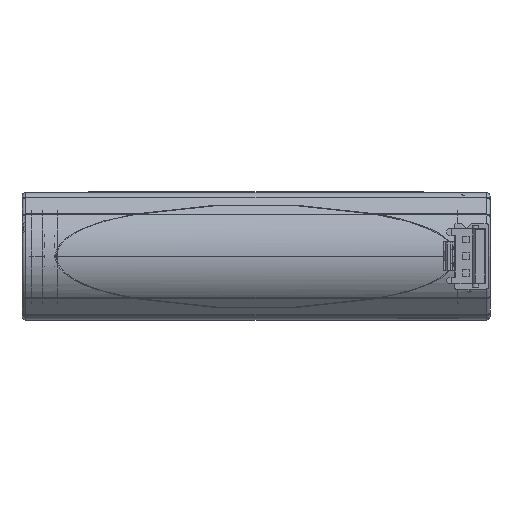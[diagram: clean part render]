
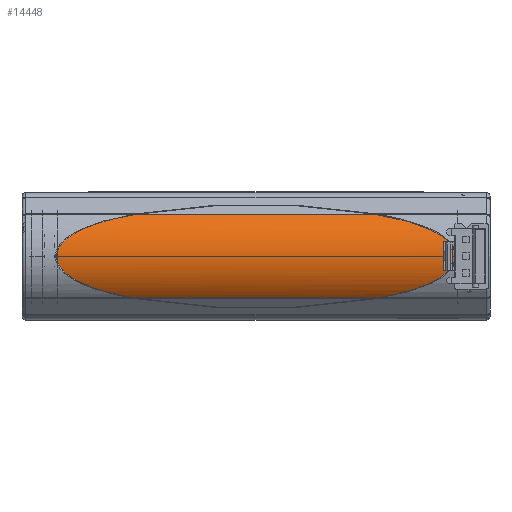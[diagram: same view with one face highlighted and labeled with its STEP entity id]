
A CAD part, front view. The second image highlights one B-rep face of the part: STEP entity #14448.
In plain terms, the highlighted cylindrical face has radius 9.35 mm (diameter 18.7 mm), a partial arc.
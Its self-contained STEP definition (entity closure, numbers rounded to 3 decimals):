
#12328=CARTESIAN_POINT('',(17.262,2.491,3.1));
#12329=CARTESIAN_POINT('',(16.596,2.392,3.209));
#12330=CARTESIAN_POINT('',(15.319,2.19,3.441));
#12331=CARTESIAN_POINT('',(13.568,1.885,3.83));
#12332=CARTESIAN_POINT('',(11.978,1.584,4.259));
#12333=CARTESIAN_POINT('',(10.535,1.293,4.731));
#12334=CARTESIAN_POINT('',(9.241,1.015,5.249));
#12335=CARTESIAN_POINT('',(8.098,0.758,
5.813));
#12336=CARTESIAN_POINT('',(7.1,0.523,
6.437));
#12337=CARTESIAN_POINT('',(6.287,0.326,
7.108));
#12338=CARTESIAN_POINT('',(5.646,0.166,
7.863));
#12339=CARTESIAN_POINT('',(5.258,0.067,
8.679));
#12340=CARTESIAN_POINT('',(5.154,0.04,
9.456));
#12341=CARTESIAN_POINT('',(5.296,0.076,
10.238));
#12342=CARTESIAN_POINT('',(5.72,0.184,
11.042));
#12343=CARTESIAN_POINT('',(6.396,0.353,
11.797));
#12344=CARTESIAN_POINT('',(7.27,0.564,
12.481));
#12345=CARTESIAN_POINT('',(8.26,0.795,
13.072));
#12346=CARTESIAN_POINT('',(9.302,1.028,13.574));
#12347=CARTESIAN_POINT('',(10.387,1.261,14.009));
#12348=CARTESIAN_POINT('',(11.514,1.491,14.393));
#12349=CARTESIAN_POINT('',(12.724,1.727,14.748));
#12350=CARTESIAN_POINT('',(14.054,1.971,15.081));
#12351=CARTESIAN_POINT('',(15.535,2.224,15.399));
#12352=CARTESIAN_POINT('',(16.665,2.402,15.602));
#12353=CARTESIAN_POINT('',(17.262,2.491,15.7));
#12355=DIRECTION('',(1.,0.,0.));
#12356=VECTOR('',#12355,35.457);
#12357=CARTESIAN_POINT('',(17.262,2.491,15.7));
#12358=LINE('',#12357,#12356);
#12359=CARTESIAN_POINT('',(52.718,2.491,15.7));
#12360=CARTESIAN_POINT('',(53.381,2.392,15.592));
#12361=CARTESIAN_POINT('',(54.651,2.191,15.361));
#12362=CARTESIAN_POINT('',(56.392,1.888,14.975));
#12363=CARTESIAN_POINT('',(57.974,1.59,14.549));
#12364=CARTESIAN_POINT('',(59.409,1.3,14.081));
#12365=CARTESIAN_POINT('',(60.697,1.024,13.57));
#12366=CARTESIAN_POINT('',(61.837,0.768,
13.012));
#12367=CARTESIAN_POINT('',(62.829,0.536,
12.399));
#12368=CARTESIAN_POINT('',(63.647,0.337,
11.735));
#12369=CARTESIAN_POINT('',(64.293,0.176,
10.995));
#12370=CARTESIAN_POINT('',(64.698,0.073,
10.195));
#12371=CARTESIAN_POINT('',(64.826,0.04,
9.422));
#12372=CARTESIAN_POINT('',(64.71,0.07,
8.636));
#12373=CARTESIAN_POINT('',(64.302,0.173,
7.816));
#12374=CARTESIAN_POINT('',(63.638,0.339,
7.053));
#12375=CARTESIAN_POINT('',(62.769,0.55,
6.359));
#12376=CARTESIAN_POINT('',(61.78,0.781,
5.76));
#12377=CARTESIAN_POINT('',(60.734,1.016,5.251));
#12378=CARTESIAN_POINT('',(59.642,1.251,4.809));
#12379=CARTESIAN_POINT('',(58.507,1.483,4.419));
#12380=CARTESIAN_POINT('',(57.286,1.721,4.06));
#12381=CARTESIAN_POINT('',(55.946,1.967,3.723));
#12382=CARTESIAN_POINT('',(54.454,2.223,3.403));
#12383=CARTESIAN_POINT('',(53.318,2.402,3.198));
#12384=CARTESIAN_POINT('',(52.718,2.491,3.1));
#12386=DIRECTION('',(-1.,0.,0.));
#12387=VECTOR('',#12386,35.457);
#12388=CARTESIAN_POINT('',(52.718,2.491,3.1));
#12389=LINE('',#12388,#12387);
#12955=VERTEX_POINT('',#12328);
#12956=VERTEX_POINT('',#12353);
#12957=VERTEX_POINT('',#12359);
#12958=VERTEX_POINT('',#12384);
#14435=CARTESIAN_POINT('',(69.93,9.4,9.4));
#14436=DIRECTION('',(-1.,0.,0.));
#14437=DIRECTION('',(0.,-1.,0.));
#14438=AXIS2_PLACEMENT_3D('',#14435,#14436,#14437);
#14439=CYLINDRICAL_SURFACE('',#14438,9.35);
#14440=ORIENTED_EDGE('',*,*,#13676,.T.);
#14442=ORIENTED_EDGE('',*,*,#14441,.T.);
#14443=ORIENTED_EDGE('',*,*,#13680,.T.);
#14445=ORIENTED_EDGE('',*,*,#14444,.T.);
#14446=EDGE_LOOP('',(#14440,#14442,#14443,#14445));
#14447=FACE_OUTER_BOUND('',#14446,.F.);
#12354=B_SPLINE_CURVE_WITH_KNOTS('',3,(#12328,#12329,#12330,#12331,#12332,
#12333,#12334,#12335,#12336,#12337,#12338,#12339,#12340,#12341,#12342,#12343,
#12344,#12345,#12346,#12347,#12348,#12349,#12350,#12351,#12352,#12353),
.UNSPECIFIED.,.F.,.F.,(4,1,1,1,1,1,1,1,1,1,1,1,1,1,1,1,1,1,1,1,1,1,1,4),(0.,
0.043,0.087,0.13,0.174,
0.217,0.261,0.304,0.348,
0.391,0.435,0.478,0.522,
0.565,0.609,0.652,0.696,
0.739,0.783,0.826,0.87,
0.913,0.957,1.),.UNSPECIFIED.);
#12385=B_SPLINE_CURVE_WITH_KNOTS('',3,(#12359,#12360,#12361,#12362,#12363,
#12364,#12365,#12366,#12367,#12368,#12369,#12370,#12371,#12372,#12373,#12374,
#12375,#12376,#12377,#12378,#12379,#12380,#12381,#12382,#12383,#12384),
.UNSPECIFIED.,.F.,.F.,(4,1,1,1,1,1,1,1,1,1,1,1,1,1,1,1,1,1,1,1,1,1,1,4),(0.,
0.043,0.087,0.13,0.174,
0.217,0.261,0.304,0.348,
0.391,0.435,0.478,0.522,
0.565,0.609,0.652,0.696,
0.739,0.783,0.826,0.87,
0.913,0.957,1.),.UNSPECIFIED.);
#13676=EDGE_CURVE('',#12955,#12956,#12354,.T.);
#13680=EDGE_CURVE('',#12957,#12958,#12385,.T.);
#14441=EDGE_CURVE('',#12956,#12957,#12358,.T.);
#14444=EDGE_CURVE('',#12958,#12955,#12389,.T.);
#14448=ADVANCED_FACE('',(#14447),#14439,.T.);
